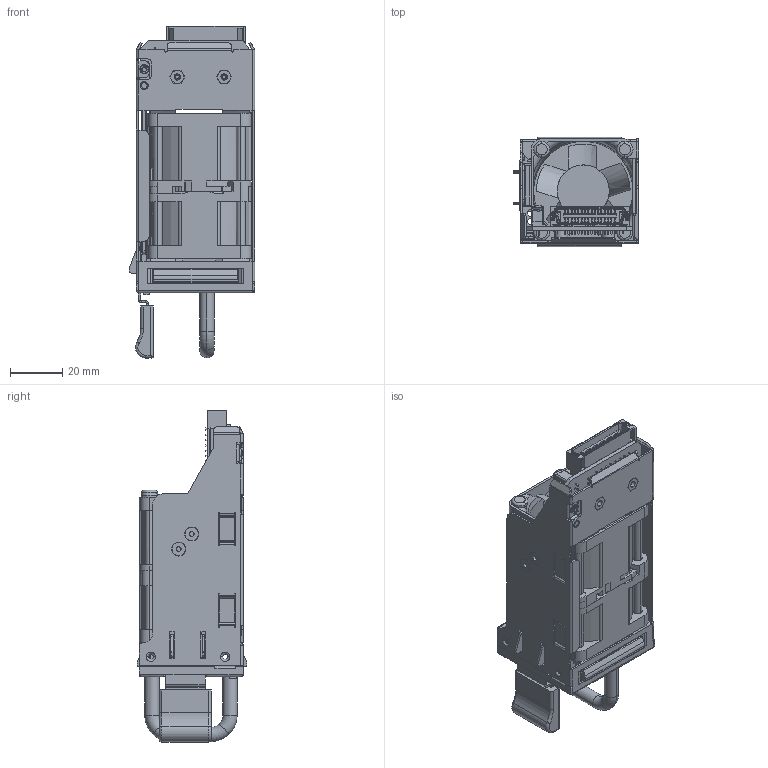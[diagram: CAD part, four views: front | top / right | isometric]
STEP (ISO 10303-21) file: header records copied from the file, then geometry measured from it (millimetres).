
FILE_DESCRIPTION((''),'2;1');
FILE_NAME('AGC5648S_FAN_MODULE__ASM','2017-02-08T',('ETHAN.CHAN'),(''),'PRO/ENGINEER BY PARAMETRIC TECHNOLOGY CORPORATION, 2009360','PRO/ENGINEER BY PARAMETRIC TECHNOLOGY CORPORATION, 2009360','');
FILE_SCHEMA(('AUTOMOTIVE_DESIGN_CC2 { 1 2 10303 214 -1 1 5 2 }'));
Length unit declared in the file: millimetre
Products named in the file (67): 3469443002_FAN_BKT_433U_1; P_STANDOFF_M25_L48_1; LATCH_FA_3469209300_1; L9032NB_FAN_LP-ALIGN-PIN_1; PULL_SCREW_FLAT_16T_1; FAN_TRAY_BRACKET_ASM_1_ASM; FAN_MODULE_PCB_1; _A2001WV2-8P-5E_1; A2001WV2-8P-5E_ASM_1_ASM; _A2001H02-8P_1; A2001H02-8P_ASM_1_ASM; ___J29_1; ___J30_1; ___J31_1; ___J32_1; ___J33_1; ___J11_1; ___J4_1; ___J1_1; ___J2_1; ___J5_1; ___J3_1; ___J6_1; ___J7_1; ___J8_1; ___J9_1; ___J10_1; ___J12_1; ___J13_1; ___J14_1; ___J15_1; ___J16_1; ___J17_1; ___J18_1; ___J19_1; ___J20_1; ___J21_1; ___J22_1; ___J23_1; ___J24_1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
Assembly tree (74 placements, depth 5):
  AGC5648S_FAN_MODULE__ASM
    FAN_TRAY_BRACKET_ASM_1_ASM
      3469443002_FAN_BKT_433U_1
      P_STANDOFF_M25_L48_1  x2
      LATCH_FA_3469209300_1
      L9032NB_FAN_LP-ALIGN-PIN_1
      PULL_SCREW_FLAT_16T_1  x2
    FAN_MODULE_PCB_ASM_2_ASM
      FAN_MODULE_PCB_1
      A2001WV2-8P-5E_ASM_1_ASM
        _A2001WV2-8P-5E_1
      A2001H02-8P_ASM_1_ASM
        _A2001H02-8P_1
      MSCSM32-08-02-RS_ASM_1_ASM
        MSCSM32-08-02-RS_ANY_ASM_1_ASM
          ___J29_1
          ___J30_1
          ___J31_1
          ___J32_1
          ___J33_1
          ___J11_1
          ___J4_1
          ___J1_1
          ___J2_1
          ___J5_1
          ___J3_1
          ___J6_1
          ___J7_1
          ___J8_1
          ___J9_1
          ___J10_1
          ___J12_1
          ___J13_1
          ___J14_1
          ___J15_1
          ___J16_1
          ___J17_1
          ___J18_1
          ___J19_1
          ___J20_1
          ___J21_1
          ___J22_1
          ___J23_1
          ___J24_1
          ___J25_1
          ___J26_1
          ___J27_1
          ___J28_1
    4056_DF00_ASM_1_ASM
      4056_DF00_ASM_1_ASM_1_ASM
        MSBR-4_1_1
        MSBR-3_1_1
        MSBR-2_1_1
        MSBR-1_1_2
    3252506403_AG9032_FAN_LP_1
    SRF3_5-65_ASM_1_ASM  x4
      SRF3_5-65_________ANY_ASM_1_ASM
        SRF3_5-65A_ANY_1
        SRF3_5-65B_ANY_1
    3105460500_1  x2
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Bounding box: 48.2 x 42 x 127.69 mm (x, y, z)
Volume: 66231.9 mm3; surface area: 70642.2 mm2
Topology: 69 solids, 69 shells, 7171 faces, 19878 edges, 12810 vertices
Faces by surface type: plane 5976, cylinder 922, cone 95, bspline 94, torus 75, extrusion 9
Entity records: 249836 total; most frequent: CARTESIAN_POINT 46132, ORIENTED_EDGE 38252, DIRECTION 34691, EDGE_CURVE 19126, VECTOR 16855, LINE 16846, VERTEX_POINT 12327, AXIS2_PLACEMENT_3D 8918
